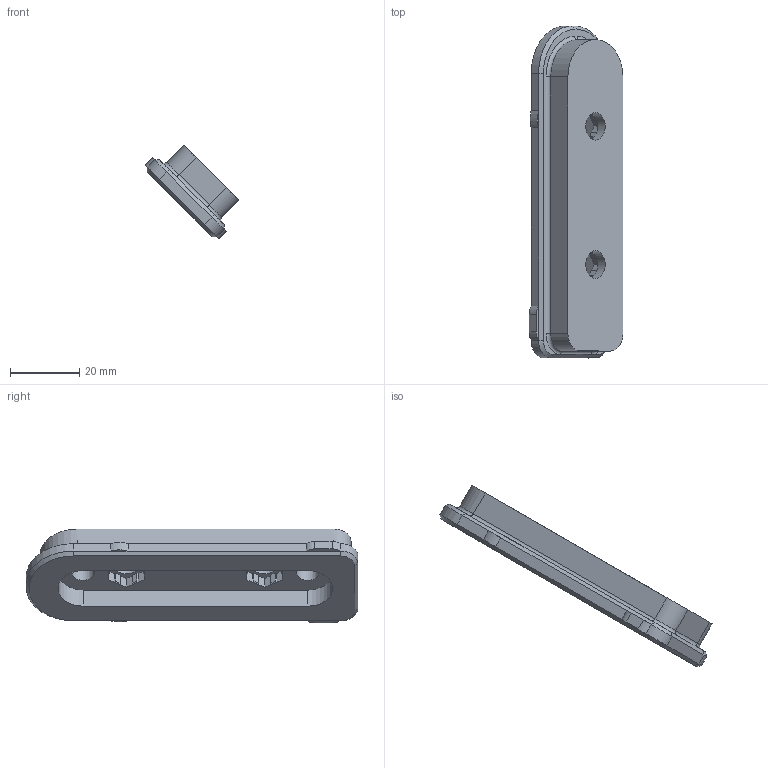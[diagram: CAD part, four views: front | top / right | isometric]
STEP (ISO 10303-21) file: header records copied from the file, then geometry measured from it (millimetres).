
FILE_DESCRIPTION (( 'STEP AP214' ), '1' );
FILE_NAME ('MONO_038-p231_02.STEP', '2026-03-24T01:36:41', ( '' ), ( '' ), 'SwSTEP 2.0', 'SolidWorks 2024', '' );
FILE_SCHEMA (( 'AUTOMOTIVE_DESIGN' ));
Length unit declared in the file: millimetre
Products named in the file (1): MONO_038-p231_02
Bounding box: 27.15 x 96 x 27.15 mm (x, y, z)
Volume: 20326.3 mm3; surface area: 9386.1 mm2
Topology: 1 solids, 1 shells, 146 faces, 375 edges, 236 vertices
Faces by surface type: plane 110, cylinder 24, cone 8, torus 4
Full cylindrical faces by diameter (mm): 6.5 x2, 8 x2
Entity records: 4354 total; most frequent: CARTESIAN_POINT 754, ORIENTED_EDGE 742, DIRECTION 725, EDGE_CURVE 371, LINE 311, VECTOR 311, VERTEX_POINT 236, AXIS2_PLACEMENT_3D 207
